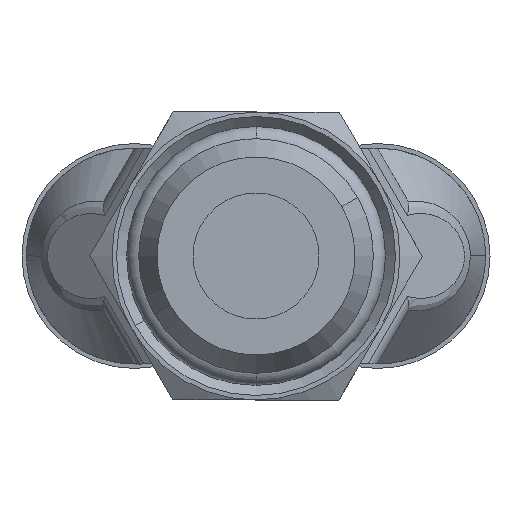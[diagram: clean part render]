
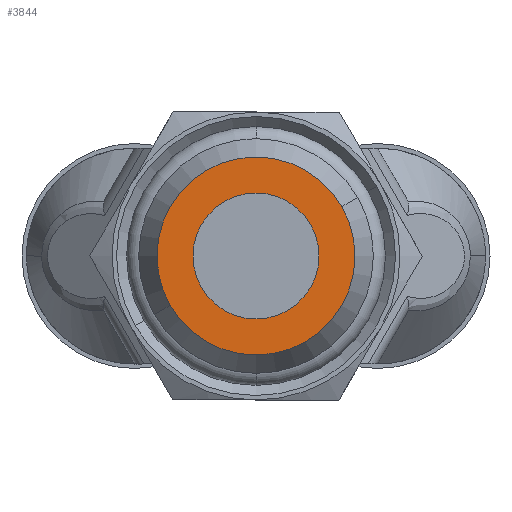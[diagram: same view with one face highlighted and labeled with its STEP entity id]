
A CAD part, front view. The second image highlights one B-rep face of the part: STEP entity #3844.
In plain terms, the highlighted planar face has unit normal (0, -1, 0).
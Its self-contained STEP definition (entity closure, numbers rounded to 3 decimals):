
#449 = CARTESIAN_POINT ( 'NONE',  ( 4.767, -14.3, 2.743 ) ) ;
#680 = CIRCLE ( 'NONE', #19552, 3.5 ) ;
#1102 = EDGE_CURVE ( 'NONE', #3088, #13286, #5075, .T. ) ;
#3088 = VERTEX_POINT ( 'NONE', #449 ) ;
#3270 = EDGE_CURVE ( 'NONE', #13286, #3088, #5114, .T. ) ;
#3282 = EDGE_CURVE ( 'NONE', #17385, #17384, #5131, .T. ) ;
#3844 = ADVANCED_FACE ( 'NONE', ( #17964, #17968 ), #7848, .T. ) ;
#4020 = AXIS2_PLACEMENT_3D ( 'NONE', #4984, #4985, #4986 ) ;
#4023 = AXIS2_PLACEMENT_3D ( 'NONE', #17285, #17286, #17287 ) ;
#4984 = CARTESIAN_POINT ( 'NONE',  ( 0., -14.3, 0. ) ) ;
#4985 = DIRECTION ( 'NONE',  ( 0., -1., 0. ) ) ;
#4986 = DIRECTION ( 'NONE',  ( -0.867, 0., -0.499 ) ) ;
#5075 = CIRCLE ( 'NONE', #5668, 5.5 ) ;
#5114 = CIRCLE ( 'NONE', #4020, 5.5 ) ;
#5131 = CIRCLE ( 'NONE', #4023, 3.5 ) ;
#5655 = EDGE_CURVE ( 'NONE', #17384, #17385, #680, .T. ) ;
#5668 = AXIS2_PLACEMENT_3D ( 'NONE', #19542, #19541, #19537 ) ;
#6990 = CARTESIAN_POINT ( 'NONE',  ( 0., -14.3, 0. ) ) ;
#6992 = DIRECTION ( 'NONE',  ( 0., -1., 0. ) ) ;
#6994 = DIRECTION ( 'NONE',  ( -0.867, 0., -0.499 ) ) ;
#7360 = AXIS2_PLACEMENT_3D ( 'NONE', #7855, #7856, #7857 ) ;
#7667 = EDGE_LOOP ( 'NONE', ( #8950, #8951 ) ) ;
#7675 = EDGE_LOOP ( 'NONE', ( #8952, #8953 ) ) ;
#7848 = PLANE ( 'NONE',  #7360 ) ;
#7855 = CARTESIAN_POINT ( 'NONE',  ( 0., -14.3, 0. ) ) ;
#7856 = DIRECTION ( 'NONE',  ( 0., -1., 0. ) ) ;
#7857 = DIRECTION ( 'NONE',  ( -0.867, 0., -0.499 ) ) ;
#8950 = ORIENTED_EDGE ( 'NONE', *, *, #5655, .F. ) ;
#8951 = ORIENTED_EDGE ( 'NONE', *, *, #3282, .F. ) ;
#8952 = ORIENTED_EDGE ( 'NONE', *, *, #1102, .T. ) ;
#8953 = ORIENTED_EDGE ( 'NONE', *, *, #3270, .T. ) ;
#13286 = VERTEX_POINT ( 'NONE', #15698 ) ;
#15698 = CARTESIAN_POINT ( 'NONE',  ( -4.767, -14.3, -2.743 ) ) ;
#16929 = CARTESIAN_POINT ( 'NONE',  ( -3.034, -14.3, -1.745 ) ) ;
#16931 = CARTESIAN_POINT ( 'NONE',  ( 3.034, -14.3, 1.745 ) ) ;
#17285 = CARTESIAN_POINT ( 'NONE',  ( 0., -14.3, 0. ) ) ;
#17286 = DIRECTION ( 'NONE',  ( 0., -1., 0. ) ) ;
#17287 = DIRECTION ( 'NONE',  ( -0.867, 0., -0.499 ) ) ;
#17384 = VERTEX_POINT ( 'NONE', #16929 ) ;
#17385 = VERTEX_POINT ( 'NONE', #16931 ) ;
#17964 = FACE_BOUND ( 'NONE', #7667, .T. ) ;
#17968 = FACE_OUTER_BOUND ( 'NONE', #7675, .T. ) ;
#19537 = DIRECTION ( 'NONE',  ( -0.867, 0., -0.499 ) ) ;
#19541 = DIRECTION ( 'NONE',  ( 0., -1., 0. ) ) ;
#19542 = CARTESIAN_POINT ( 'NONE',  ( 0., -14.3, 0. ) ) ;
#19552 = AXIS2_PLACEMENT_3D ( 'NONE', #6990, #6992, #6994 ) ;
